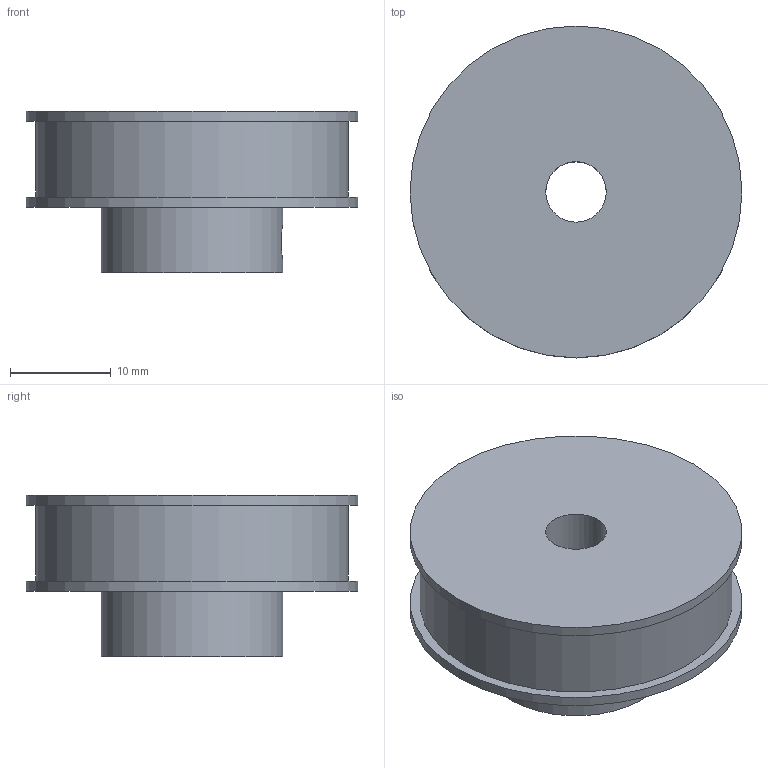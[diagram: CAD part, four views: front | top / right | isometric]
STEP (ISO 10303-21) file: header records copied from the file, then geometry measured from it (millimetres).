
FILE_DESCRIPTION(/* description */ ('Polley Z40 T2,5x6'),/* implementation_level */ '2;1');
FILE_NAME(/* name */ 'ITPTv2.01.00.31.stp',/* time_stamp */ '2025-02-12T11:21:03+01:00',/* author */ ('Rüdiger Widera'),/* organization */ (''),/* preprocessor_version */ 'ST-DEVELOPER v19.2',/* originating_system */ 'Autodesk Inventor 2024',/* authorisation */ '');
FILE_SCHEMA (('AUTOMOTIVE_DESIGN { 1 0 10303 214 3 1 1 }'));
Length unit declared in the file: millimetre
Products named in the file (1): ITPTv2.01.00.31
Bounding box: 32.9 x 32.9 x 16 mm (x, y, z)
Volume: 8532.9 mm3; surface area: 3475.9 mm2
Topology: 1 solids, 1 shells, 12 faces, 27 edges, 18 vertices
Faces by surface type: cylinder 6, plane 5, bspline 1
Full cylindrical faces by diameter (mm): 2.459 x1, 6 x1, 18 x1, 31 x1, 32.9 x2
Entity records: 585 total; most frequent: CARTESIAN_POINT 270, ORIENTED_EDGE 54, DIRECTION 53, EDGE_CURVE 27, AXIS2_PLACEMENT_3D 22, VERTEX_POINT 18, EDGE_LOOP 17, FACE_OUTER_BOUND 12
